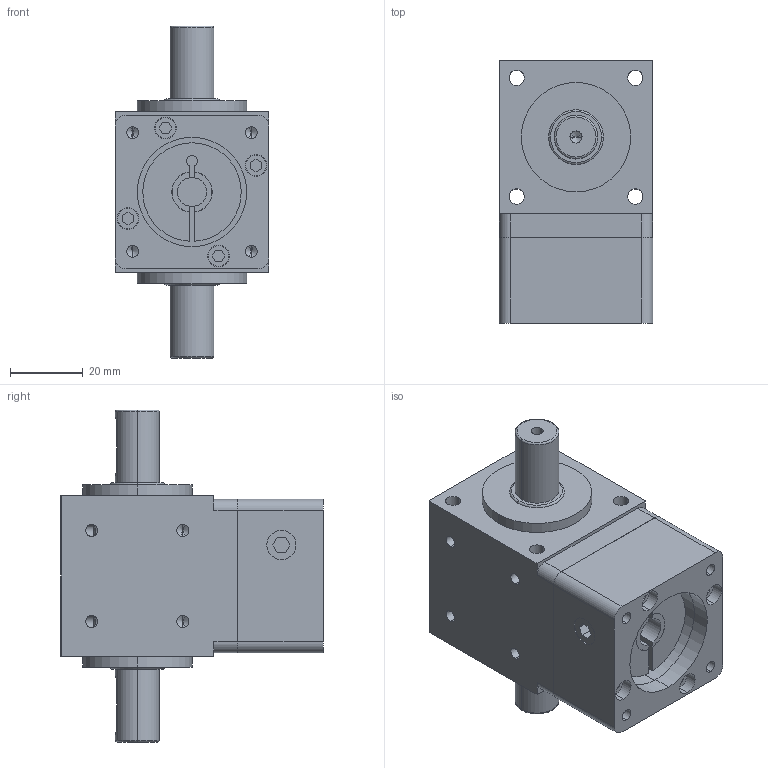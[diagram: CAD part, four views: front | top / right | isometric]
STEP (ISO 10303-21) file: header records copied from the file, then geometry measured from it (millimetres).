
FILE_DESCRIPTION (( 'STEP AP203' ), '1' );
FILE_NAME ('T42-S2单级模型（M4-46）.STEP', '2021-08-09T09:16:02', ( '' ), ( '' ), 'SwSTEP 2.0', 'SolidWorks 2016', '' );
FILE_SCHEMA (( 'CONFIG_CONTROL_DESIGN' ));
Length unit declared in the file: millimetre
Products named in the file (1): T42-S2单级模型（M4-46）
Bounding box: 42.1 x 72 x 91 mm (x, y, z)
Volume: 125806.2 mm3; surface area: 27061.8 mm2
Topology: 1 solids, 1 shells, 286 faces, 676 edges, 416 vertices
Faces by surface type: cylinder 132, plane 98, cone 48, torus 8
Entity records: 8355 total; most frequent: CARTESIAN_POINT 1705, DIRECTION 1416, ORIENTED_EDGE 1312, EDGE_CURVE 656, AXIS2_PLACEMENT_3D 539, VERTEX_POINT 416, EDGE_LOOP 346, VECTOR 338
